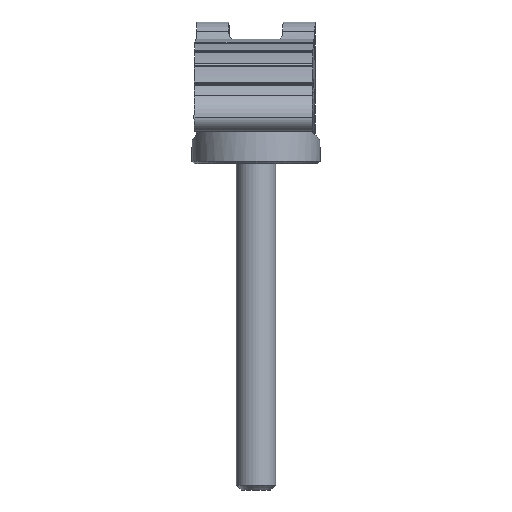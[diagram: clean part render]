
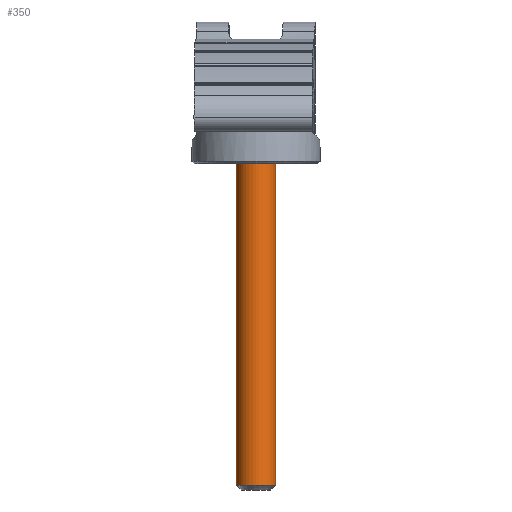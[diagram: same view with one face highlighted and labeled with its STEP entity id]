
A CAD part, left-side view. The second image highlights one B-rep face of the part: STEP entity #350.
In plain terms, the highlighted cylindrical face has radius 4 mm (diameter 8 mm), a full revolution.
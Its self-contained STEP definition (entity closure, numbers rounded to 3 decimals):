
#350=ADVANCED_FACE('',(#1155,#1157),#1159,.T.);
#1155=FACE_BOUND('',#1156,.T.);
#1156=EDGE_LOOP('',(#1581,#1582));
#1157=FACE_BOUND('',#1158,.T.);
#1158=EDGE_LOOP('',(#1583,#1584));
#1159=CYLINDRICAL_SURFACE('',#1160,4.);
#1160=AXIS2_PLACEMENT_3D('',#1161,#1162,#1163);
#1161=CARTESIAN_POINT('',(0.,0.,0.));
#1162=DIRECTION('',(-1.,0.,0.));
#1163=DIRECTION('',(0.,1.,0.));
#1581=ORIENTED_EDGE('',*,*,#1802,.T.);
#1582=ORIENTED_EDGE('',*,*,#1803,.T.);
#1583=ORIENTED_EDGE('',*,*,#1804,.T.);
#1584=ORIENTED_EDGE('',*,*,#1805,.T.);
#1802=EDGE_CURVE('',#2093,#2094,#2095,.T.);
#1803=EDGE_CURVE('',#2094,#2093,#2096,.T.);
#1804=EDGE_CURVE('',#2097,#2098,#2099,.T.);
#1805=EDGE_CURVE('',#2098,#2097,#2100,.T.);
#2093=VERTEX_POINT('',#4310);
#2094=VERTEX_POINT('',#4311);
#2095=CIRCLE('',#4312,4.);
#2096=CIRCLE('',#4316,4.);
#2097=VERTEX_POINT('',#4320);
#2098=VERTEX_POINT('',#4321);
#2099=CIRCLE('',#4322,4.);
#2100=CIRCLE('',#4326,4.);
#4310=CARTESIAN_POINT('',(-1.,4.,0.));
#4311=CARTESIAN_POINT('',(-1.,-4.,0.));
#4312=AXIS2_PLACEMENT_3D('',#4313,#4314,#4315);
#4313=CARTESIAN_POINT('',(-1.,0.,0.));
#4314=DIRECTION('',(-1.,0.,0.));
#4315=DIRECTION('',(0.,1.,0.));
#4316=AXIS2_PLACEMENT_3D('',#4317,#4318,#4319);
#4317=CARTESIAN_POINT('',(-1.,0.,0.));
#4318=DIRECTION('',(-1.,0.,0.));
#4319=DIRECTION('',(0.,-1.,0.));
#4320=CARTESIAN_POINT('',(-89.,4.,0.));
#4321=CARTESIAN_POINT('',(-89.,0.,4.));
#4322=AXIS2_PLACEMENT_3D('',#4323,#4324,#4325);
#4323=CARTESIAN_POINT('',(-89.,0.,0.));
#4324=DIRECTION('',(1.,0.,0.));
#4325=DIRECTION('',(0.,1.,0.));
#4326=AXIS2_PLACEMENT_3D('',#4327,#4328,#4329);
#4327=CARTESIAN_POINT('',(-89.,0.,0.));
#4328=DIRECTION('',(1.,0.,0.));
#4329=DIRECTION('',(0.,0.,1.));
